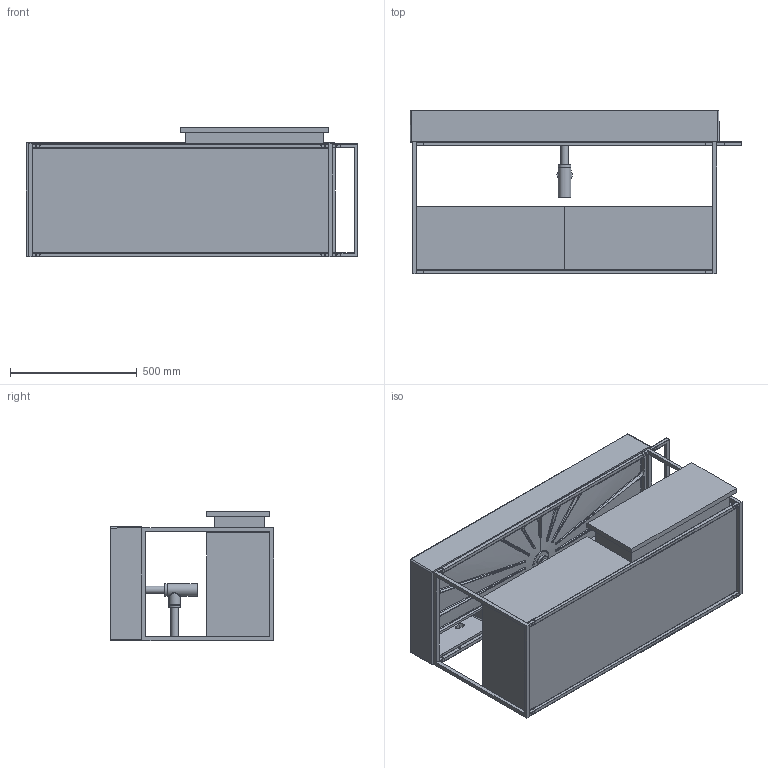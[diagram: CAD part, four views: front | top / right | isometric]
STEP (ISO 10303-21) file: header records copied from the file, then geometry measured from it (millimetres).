
FILE_DESCRIPTION (( 'STEP AP203' ), '1' );
FILE_NAME ('MSQ 122.STEP', '2019-10-24T08:54:37', ( '' ), ( '' ), 'SwSTEP 2.0', 'SolidWorks 2019', '' );
FILE_SCHEMA (( 'CONFIG_CONTROL_DESIGN' ));
Length unit declared in the file: millimetre
Products named in the file (18): ELLP122450Q0; STRUCTURE I122; STRUCTURE M; AssiemeSTRUCTURE122; cassetto122; STRUCTURE A; CASSETTOscocca122; CASSETTOcassetto122; grano; SIFONE LAVABO SOSPESO; STRUCTURE B; AssiemeSTRUCTUREB; MSQ 122; AssiemeSTRUCTURE LATERALE; STRUCTURE I122 fix; vite
Assembly tree (48 placements, depth 4):
  MSQ 122
    AssiemeSTRUCTURE122
      STRUCTURE I122 fix
      AssiemeSTRUCTURE LATERALE
        STRUCTURE A
        STRUCTURE B  x4
        vite  x4
        grano  x4
      AssiemeSTRUCTURE LATERALE
        STRUCTURE A
        STRUCTURE B  x4
        vite  x4
        grano  x4
      STRUCTURE I122  x3
      STRUCTURE M
      AssiemeSTRUCTUREB
        STRUCTURE B
        grano
        vite
      AssiemeSTRUCTUREB
        STRUCTURE B
        grano
        vite
    cassetto122
      CASSETTOscocca122
      CASSETTOcassetto122  x2
    ELLP122450Q0
    SIFONE LAVABO SOSPESO
Bounding box: 1310 x 645 x 509.5 mm (x, y, z)
Volume: 63774377.4 mm3; surface area: 8374062.4 mm2
Topology: 42 solids, 42 shells, 955 faces, 2308 edges, 1469 vertices
Faces by surface type: plane 589, cylinder 183, bspline 123, sphere 27, torus 20, cone 13
Full cylindrical faces by diameter (mm): 4 x2, 5 x50, 9 x10, 10 x2, 30 x2, 35 x5, 43 x1, 45 x2, 48 x1, 50 x3, 60 x1, 78 x1
Entity records: 36023 total; most frequent: CARTESIAN_POINT 22705, ORIENTED_EDGE 2268, DIRECTION 1997, EDGE_CURVE 1134, AXIS2_PLACEMENT_3D 735, VERTEX_POINT 729, EDGE_LOOP 617, FACE_OUTER_BOUND 550
